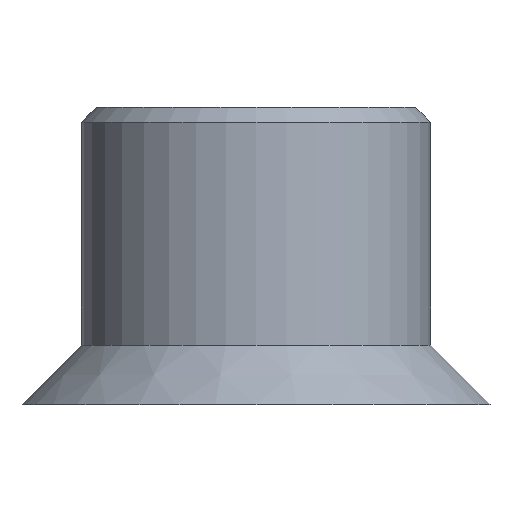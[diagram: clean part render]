
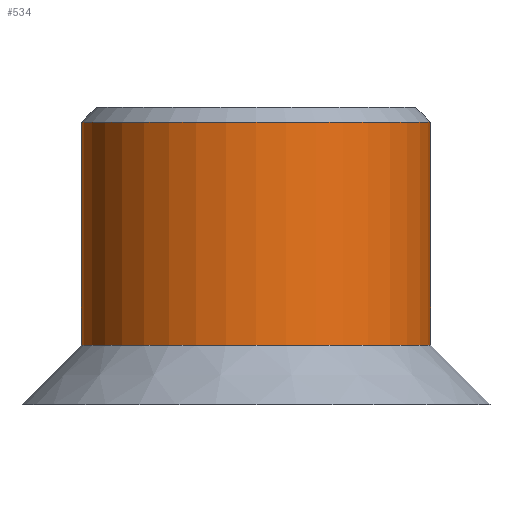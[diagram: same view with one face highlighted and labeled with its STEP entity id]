
A CAD part, front view. The second image highlights one B-rep face of the part: STEP entity #534.
In plain terms, the highlighted cylindrical face has radius 2.35 mm (diameter 4.7 mm), a partial arc.
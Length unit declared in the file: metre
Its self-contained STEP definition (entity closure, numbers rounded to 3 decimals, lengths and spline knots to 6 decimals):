
#16=CYLINDRICAL_SURFACE('',#600,0.00235);
#31=CIRCLE('',#601,0.00235);
#32=CIRCLE('',#602,0.00235);
#116=ORIENTED_EDGE('',*,*,#227,.F.);
#117=ORIENTED_EDGE('',*,*,#228,.T.);
#118=ORIENTED_EDGE('',*,*,#223,.T.);
#119=ORIENTED_EDGE('',*,*,#229,.T.);
#223=EDGE_CURVE('',#282,#283,#334,.T.);
#227=EDGE_CURVE('',#286,#287,#338,.T.);
#228=EDGE_CURVE('',#286,#282,#31,.F.);
#229=EDGE_CURVE('',#283,#287,#32,.T.);
#282=VERTEX_POINT('',#863);
#283=VERTEX_POINT('',#864);
#286=VERTEX_POINT('',#872);
#287=VERTEX_POINT('',#873);
#334=LINE('',#862,#394);
#338=LINE('',#871,#398);
#394=VECTOR('',#707,1.);
#398=VECTOR('',#713,1.);
#442=EDGE_LOOP('',(#116,#117,#118,#119));
#476=FACE_BOUND('',#442,.T.);
#534=ADVANCED_FACE('',(#476),#16,.T.);
#600=AXIS2_PLACEMENT_3D('',#870,#711,#712);
#601=AXIS2_PLACEMENT_3D('',#874,#714,#715);
#602=AXIS2_PLACEMENT_3D('',#875,#716,#717);
#707=DIRECTION('',(0.,0.,-1.));
#711=DIRECTION('',(0.,0.,-1.));
#712=DIRECTION('',(-1.,0.,0.));
#713=DIRECTION('',(0.,0.,-1.));
#714=DIRECTION('',(0.,0.,1.));
#715=DIRECTION('',(1.,0.,0.));
#716=DIRECTION('',(0.,0.,1.));
#717=DIRECTION('',(1.,0.,0.));
#862=CARTESIAN_POINT('',(-0.00235,-0.005,0.004));
#863=CARTESIAN_POINT('',(-0.00235,-0.005,0.0038));
#864=CARTESIAN_POINT('',(-0.00235,-0.005,0.0008));
#870=CARTESIAN_POINT('',(0.,-0.005,0.004));
#871=CARTESIAN_POINT('',(0.00235,-0.005,0.004));
#872=CARTESIAN_POINT('',(0.00235,-0.005,0.0038));
#873=CARTESIAN_POINT('',(0.00235,-0.005,0.0008));
#874=CARTESIAN_POINT('',(0.,-0.005,0.0038));
#875=CARTESIAN_POINT('',(0.,-0.005,0.0008));
